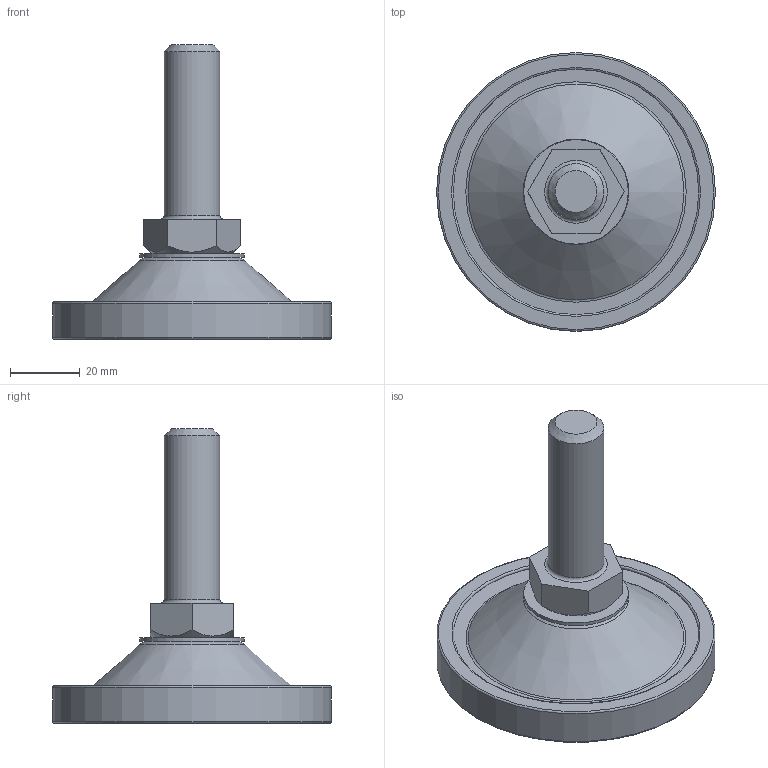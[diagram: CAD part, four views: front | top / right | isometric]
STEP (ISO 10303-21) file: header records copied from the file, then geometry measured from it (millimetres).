
FILE_DESCRIPTION(/* description */ (''),/* implementation_level */ '2;1');
FILE_NAME(/* name */ 'D:\조절자\PFR\PFR-M16-50L.stp',/* time_stamp */ '2016-03-14T15:06:52+09:00',/* author */ ('GS-DT-1-001'),/* organization */ (''),/* preprocessor_version */ 'ST-DEVELOPER v15.6',/* originating_system */ 'Autodesk Inventor LT ',/* authorisation */ '');
FILE_SCHEMA (('AUTOMOTIVE_DESIGN { 1 0 10303 214 3 1 1 }'));
Length unit declared in the file: millimetre
Products named in the file (1): PFR-M16-50L
Bounding box: 80 x 80 x 84.5 mm (x, y, z)
Volume: 61365.7 mm3; surface area: 32375.4 mm2
Topology: 5 solids, 5 shells, 76 faces, 137 edges, 83 vertices
Faces by surface type: plane 28, torus 24, cone 14, cylinder 10
Full cylindrical faces by diameter (mm): 6.912 x1, 8 x1, 8.2 x1, 8.3 x1, 16 x2, 30 x1, 74 x1, 74.4 x1, 80 x1
Entity records: 1584 total; most frequent: DIRECTION 298, CARTESIAN_POINT 251, ORIENTED_EDGE 168, AXIS2_PLACEMENT_3D 143, EDGE_LOOP 140, EDGE_CURVE 84, VERTEX_POINT 78, FACE_OUTER_BOUND 76
